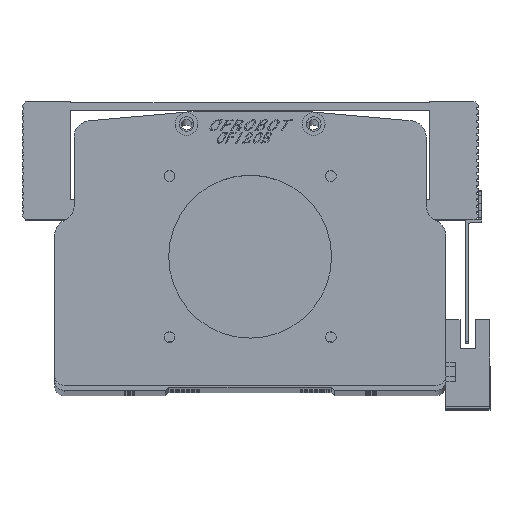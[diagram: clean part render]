
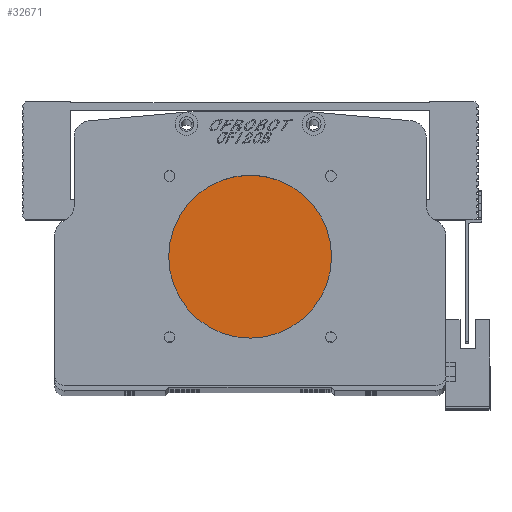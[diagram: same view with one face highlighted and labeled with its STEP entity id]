
A CAD part, top view. The second image highlights one B-rep face of the part: STEP entity #32671.
In plain terms, the highlighted planar face has unit normal (0, 0, 1).
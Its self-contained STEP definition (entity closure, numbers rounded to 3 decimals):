
#2813 = AXIS2_PLACEMENT_3D ( 'NONE', #14881, #97002, #26663 ) ;
#10660 = CARTESIAN_POINT ( 'NONE',  ( 64., 26.5, 100. ) ) ;
#14881 = CARTESIAN_POINT ( 'NONE',  ( 39., 26.5, 100. ) ) ;
#21896 = CARTESIAN_POINT ( 'NONE',  ( 0., 0., 100. ) ) ;
#26663 = DIRECTION ( 'NONE',  ( 1., 0., 0. ) ) ;
#30828 = EDGE_CURVE ( 'NONE', #53464, #117159, #61114, .T. ) ;
#32671 = ADVANCED_FACE ( 'NONE', ( #62239 ), #115384, .T. ) ;
#33703 = DIRECTION ( 'NONE',  ( 0., 0., 1. ) ) ;
#40400 = EDGE_CURVE ( 'NONE', #117159, #53464, #103887, .T. ) ;
#42294 = AXIS2_PLACEMENT_3D ( 'NONE', #21896, #33703, #115879 ) ;
#53464 = VERTEX_POINT ( 'NONE', #10660 ) ;
#55875 = EDGE_LOOP ( 'NONE', ( #141404, #87730 ) ) ;
#61095 = CARTESIAN_POINT ( 'NONE',  ( 39., 26.5, 100. ) ) ;
#61114 = CIRCLE ( 'NONE', #2813, 25. ) ;
#62239 = FACE_OUTER_BOUND ( 'NONE', #55875, .T. ) ;
#72948 = DIRECTION ( 'NONE',  ( 1., 0., 0. ) ) ;
#87730 = ORIENTED_EDGE ( 'NONE', *, *, #40400, .T. ) ;
#89083 = CARTESIAN_POINT ( 'NONE',  ( 14., 26.5, 100. ) ) ;
#97002 = DIRECTION ( 'NONE',  ( 0., 0., 1. ) ) ;
#103887 = CIRCLE ( 'NONE', #115117, 25. ) ;
#115117 = AXIS2_PLACEMENT_3D ( 'NONE', #61095, #143395, #72948 ) ;
#115384 = PLANE ( 'NONE',  #42294 ) ;
#115879 = DIRECTION ( 'NONE',  ( 1., 0., 0. ) ) ;
#117159 = VERTEX_POINT ( 'NONE', #89083 ) ;
#141404 = ORIENTED_EDGE ( 'NONE', *, *, #30828, .T. ) ;
#143395 = DIRECTION ( 'NONE',  ( 0., 0., 1. ) ) ;
